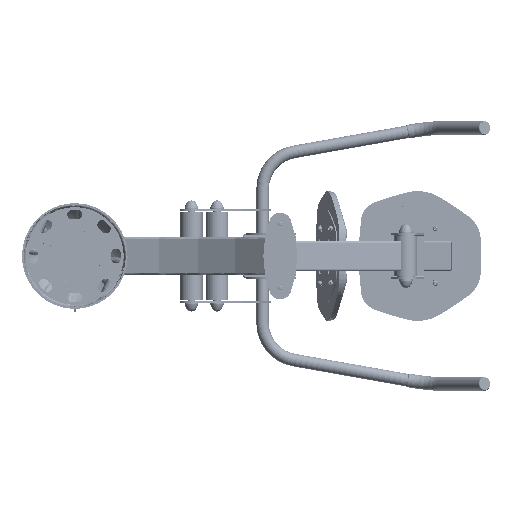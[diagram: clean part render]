
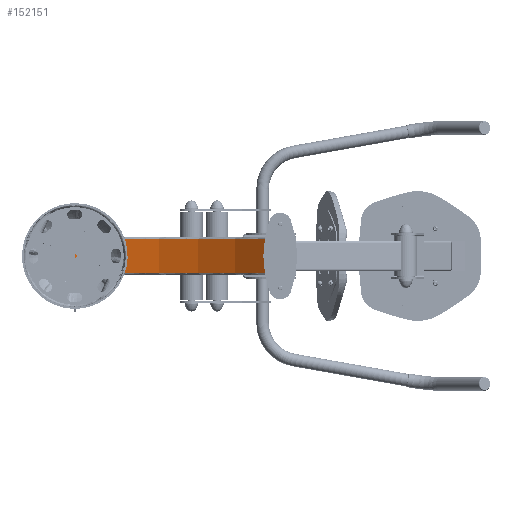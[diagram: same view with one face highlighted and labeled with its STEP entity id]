
A CAD part, front view. The second image highlights one B-rep face of the part: STEP entity #152151.
In plain terms, the highlighted cylindrical face has radius 725 mm (diameter 1450 mm), a partial arc.
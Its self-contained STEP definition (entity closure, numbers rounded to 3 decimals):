
#1162 = CARTESIAN_POINT ( 'NONE',  ( -511.001, 514.298, -45. ) ) ;
#5633 = ORIENTED_EDGE ( 'NONE', *, *, #145589, .T. ) ;
#6756 = CARTESIAN_POINT ( 'NONE',  ( -511.001, 514.298, 45. ) ) ;
#9184 = EDGE_CURVE ( 'NONE', #87165, #151344, #145712, .T. ) ;
#12159 = CARTESIAN_POINT ( 'NONE',  ( 0., 0., -45. ) ) ;
#12408 = EDGE_LOOP ( 'NONE', ( #93967, #5633, #21688, #116965 ) ) ;
#13636 = FACE_OUTER_BOUND ( 'NONE', #12408, .T. ) ;
#19925 = CARTESIAN_POINT ( 'NONE',  ( 0., 725., -45. ) ) ;
#21688 = ORIENTED_EDGE ( 'NONE', *, *, #9184, .T. ) ;
#24361 = CARTESIAN_POINT ( 'NONE',  ( -511.001, 514.298, -50.409 ) ) ;
#25093 = DIRECTION ( 'NONE',  ( 0., 0., -1. ) ) ;
#33278 = DIRECTION ( 'NONE',  ( -1., 0., 0. ) ) ;
#39491 = AXIS2_PLACEMENT_3D ( 'NONE', #12159, #104193, #33278 ) ;
#47982 = DIRECTION ( 'NONE',  ( 0., 0., 1. ) ) ;
#51258 = CARTESIAN_POINT ( 'NONE',  ( 0., 0., 45. ) ) ;
#54722 = CIRCLE ( 'NONE', #39491, 725. ) ;
#57426 = VERTEX_POINT ( 'NONE', #6756 ) ;
#63093 = DIRECTION ( 'NONE',  ( -1., 0., 0. ) ) ;
#64627 = DIRECTION ( 'NONE',  ( -1., 0., 0. ) ) ;
#64726 = VECTOR ( 'NONE', #88946, 1000. ) ;
#66718 = CARTESIAN_POINT ( 'NONE',  ( 0., 725., 45. ) ) ;
#74904 = LINE ( 'NONE', #24361, #135571 ) ;
#81631 = CIRCLE ( 'NONE', #141280, 725. ) ;
#83681 = CARTESIAN_POINT ( 'NONE',  ( 0., 0., -216.752 ) ) ;
#87165 = VERTEX_POINT ( 'NONE', #19925 ) ;
#88946 = DIRECTION ( 'NONE',  ( 0., 0., 1. ) ) ;
#93967 = ORIENTED_EDGE ( 'NONE', *, *, #139233, .F. ) ;
#103772 = CYLINDRICAL_SURFACE ( 'NONE', #148261, 725. ) ;
#104193 = DIRECTION ( 'NONE',  ( 0., 0., -1. ) ) ;
#111615 = CARTESIAN_POINT ( 'NONE',  ( 0., 725., -50. ) ) ;
#116965 = ORIENTED_EDGE ( 'NONE', *, *, #152274, .F. ) ;
#128099 = VERTEX_POINT ( 'NONE', #1162 ) ;
#133562 = DIRECTION ( 'NONE',  ( 0., 0., -1. ) ) ;
#135571 = VECTOR ( 'NONE', #47982, 1000. ) ;
#139233 = EDGE_CURVE ( 'NONE', #128099, #57426, #74904, .T. ) ;
#141280 = AXIS2_PLACEMENT_3D ( 'NONE', #51258, #133562, #63093 ) ;
#145589 = EDGE_CURVE ( 'NONE', #128099, #87165, #54722, .T. ) ;
#145712 = LINE ( 'NONE', #111615, #64726 ) ;
#148261 = AXIS2_PLACEMENT_3D ( 'NONE', #83681, #25093, #64627 ) ;
#151344 = VERTEX_POINT ( 'NONE', #66718 ) ;
#152151 = ADVANCED_FACE ( 'NONE', ( #13636 ), #103772, .F. ) ;
#152274 = EDGE_CURVE ( 'NONE', #57426, #151344, #81631, .T. ) ;
